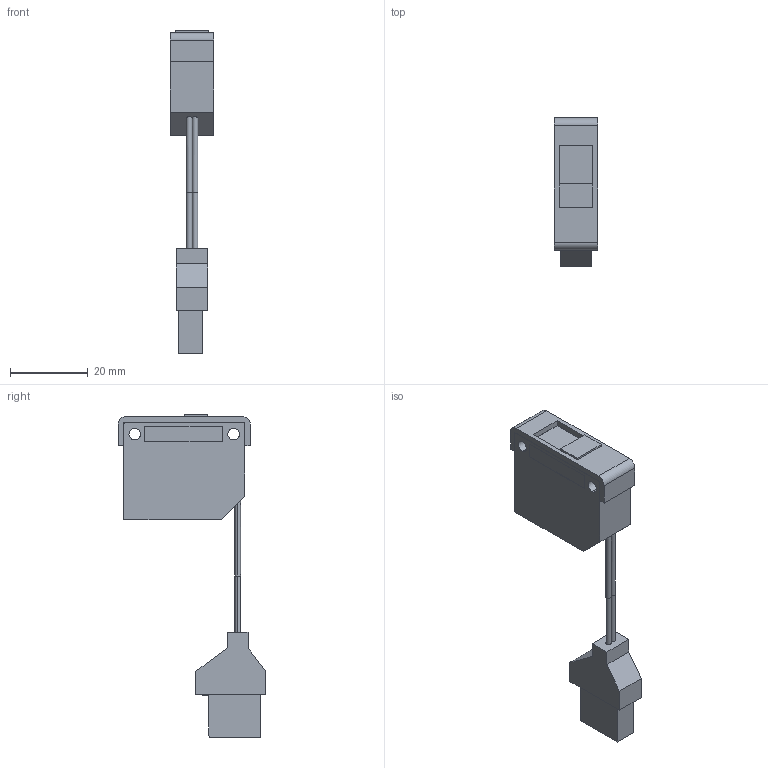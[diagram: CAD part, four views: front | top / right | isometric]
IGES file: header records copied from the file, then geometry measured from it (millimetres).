
Start section: SolidWorks IGES FILE using analytic representation for surfaces
Global section: file name: C:\Documents and Settings\yk0651\デスクトップ\3D_catalog_050929\0_IGES\LS-H22.IGS; native system: SolidWorks 2004 by SolidWorks Corporation; preprocessor: Version 5.3; author: yk0651; date: 051001.151946; units: millimetre
Bounding box: 11.2 x 38 x 83 mm (x, y, z)
Volume: 10179.7 mm3; surface area: 7134.6 mm2
Topology: 4 solids, 4 shells, 141 faces, 361 edges, 240 vertices
Faces by surface type: plane 112, revolution 29
